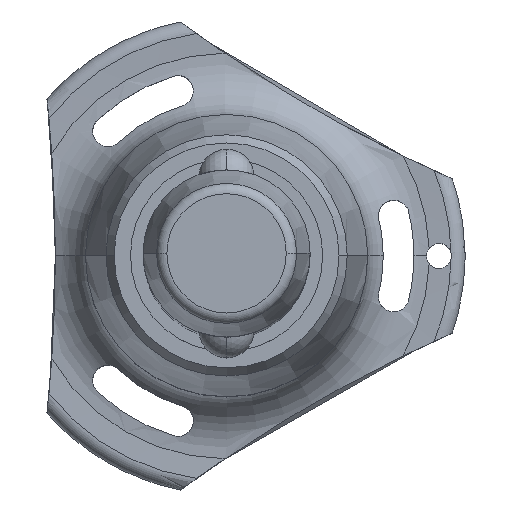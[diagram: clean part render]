
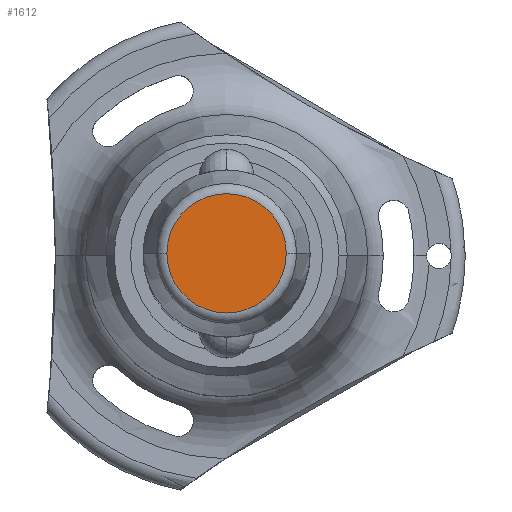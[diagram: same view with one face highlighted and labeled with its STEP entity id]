
A CAD part, top view. The second image highlights one B-rep face of the part: STEP entity #1612.
In plain terms, the highlighted planar face has unit normal (0, 0, 1).
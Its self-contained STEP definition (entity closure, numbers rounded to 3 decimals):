
#61 = DIRECTION ( 'NONE',  ( 1., 0., 0. ) ) ;
#81 = DIRECTION ( 'NONE',  ( 0., 0., 1. ) ) ;
#198 = CARTESIAN_POINT ( 'NONE',  ( 7.144, 0., 20.5 ) ) ;
#211 = AXIS2_PLACEMENT_3D ( 'NONE', #715, #81, #61 ) ;
#423 = PLANE ( 'NONE',  #2645 ) ;
#450 = CIRCLE ( 'NONE', #211, 7.144 ) ;
#541 = CIRCLE ( 'NONE', #1364, 7.144 ) ;
#715 = CARTESIAN_POINT ( 'NONE',  ( 0., 0., 20.5 ) ) ;
#744 = CARTESIAN_POINT ( 'NONE',  ( 0., 0., 20.5 ) ) ;
#774 = EDGE_CURVE ( 'NONE', #1909, #1254, #450, .T. ) ;
#780 = EDGE_LOOP ( 'NONE', ( #2093, #1687 ) ) ;
#872 = CARTESIAN_POINT ( 'NONE',  ( 0., 0., 20.5 ) ) ;
#1254 = VERTEX_POINT ( 'NONE', #198 ) ;
#1305 = DIRECTION ( 'NONE',  ( 0., 0., 1. ) ) ;
#1364 = AXIS2_PLACEMENT_3D ( 'NONE', #744, #1843, #1878 ) ;
#1612 = ADVANCED_FACE ( 'NONE', ( #2409 ), #423, .T. ) ;
#1687 = ORIENTED_EDGE ( 'NONE', *, *, #774, .T. ) ;
#1843 = DIRECTION ( 'NONE',  ( 0., 0., 1. ) ) ;
#1852 = CARTESIAN_POINT ( 'NONE',  ( -7.144, 0., 20.5 ) ) ;
#1878 = DIRECTION ( 'NONE',  ( 1., 0., 0. ) ) ;
#1909 = VERTEX_POINT ( 'NONE', #1852 ) ;
#1977 = DIRECTION ( 'NONE',  ( 1., 0., 0. ) ) ;
#2093 = ORIENTED_EDGE ( 'NONE', *, *, #2156, .T. ) ;
#2156 = EDGE_CURVE ( 'NONE', #1254, #1909, #541, .T. ) ;
#2409 = FACE_OUTER_BOUND ( 'NONE', #780, .T. ) ;
#2645 = AXIS2_PLACEMENT_3D ( 'NONE', #872, #1305, #1977 ) ;
